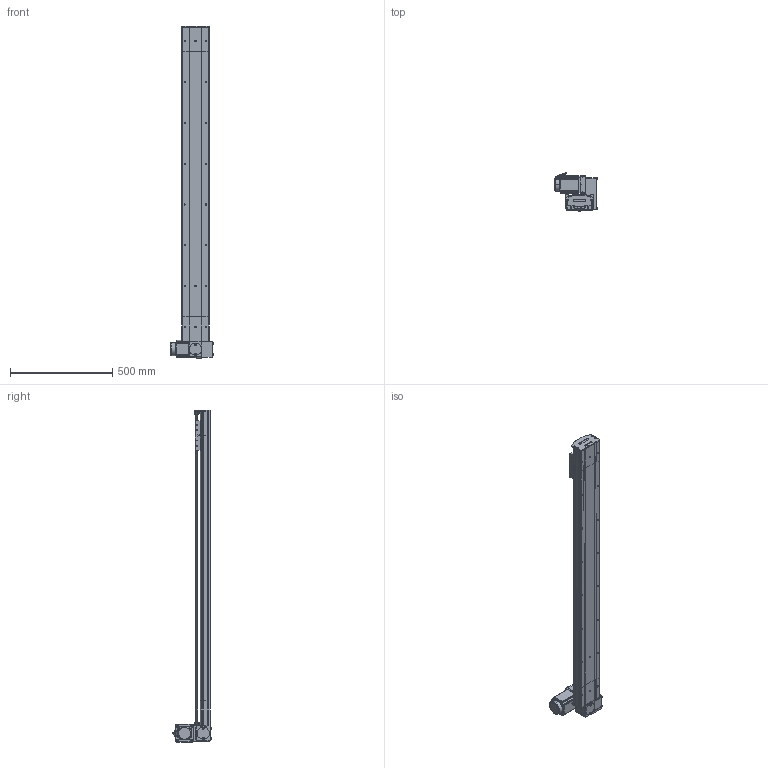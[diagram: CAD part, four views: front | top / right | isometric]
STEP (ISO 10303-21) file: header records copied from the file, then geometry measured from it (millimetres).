
FILE_DESCRIPTION (( 'STEP AP214' ), '1' );
FILE_NAME ('D14 TBH LT S1300.STEP', '2010-06-29T13:56:36', ( 'Conseil Régional Haute-Normandie' ), ( 'Conseil Régional Haute-Normandie' ), 'SwSTEP 2.0', 'SolidWorks 2010', '' );
FILE_SCHEMA (( 'AUTOMOTIVE_DESIGN' ));
Length unit declared in the file: millimetre
Products named in the file (39): couvercle D14 head_Default; Moteur motionking 90BLDC100A-640; couvercle D14_Default; corp head D14_Default; poulie tail_Default; vis M5 L8 90°_Default; poulie head_Default; D14 TB H LT_Default; Couroie_Default; couroie 2_Default; Arbre+rail head D14; plaque de  bout head D14 LT_Default; vis M5 L5_Default; Chariot D14; avant 90BLDC100A-640; chariot D14B_Default; Plaque racord D14_Default; Conecteur_Default; guide D14; Cvis M5 L70_Default; renvoi LH_Default; Vis M5 L16-2_Default; corps 90BLDC100A-640; Conecteur2_Default; Cache arbre_Default; Cache_Default; codeur 90BLDC100-640; vis M5 L12_Default; tete d''axe haut D14; plaque de  bout tail D14_Default; corpl tail D14_Default; D14 couroie L1300_Default; Tail D14B_Default; couvercle D14 course L1300_Default; Rail + couroie D14 Course 1300 ; corpl 1300_Default; Arbre+rail tail D14; vis M5 L16_Default; D14 TBH LT S1300
Assembly tree (68 placements, depth 4):
  D14 TBH LT S1300
    D14 TB H LT_Default
      Cvis M5 L70_Default  x4
      Vis M5 L16-2_Default  x4
      couroie 2_Default
      vis M5 L12_Default  x12
      Cache arbre_Default
      poulie head_Default
      plaque de  bout head D14 LT_Default
      vis M5 L5_Default  x2
      couvercle D14 head_Default
      Cache_Default  x2
      Plaque racord D14_Default
      corp head D14_Default
      Arbre+rail head D14
      Moteur motionking 90BLDC100A-640
        Conecteur2_Default
        codeur 90BLDC100-640
        Conecteur_Default
        avant 90BLDC100A-640
        corps 90BLDC100A-640
      renvoi LH_Default
    D14 couroie L1300_Default
      corpl 1300_Default
      couvercle D14 course L1300_Default
      Rail + couroie D14 Course 1300 
    Tail D14B_Default
      tete d''axe haut D14
      corpl tail D14_Default
      plaque de  bout tail D14_Default
      vis M5 L8 90°_Default  x2
      vis M5 L12_Default  x4
      Couroie_Default
      vis M5 L16_Default  x2
      couvercle D14_Default
      poulie tail_Default
      Arbre+rail tail D14
    chariot D14B_Default
      vis M5 L12_Default  x4
      guide D14  x2
      Chariot D14
Bounding box: 207.2 x 189.1 x 1625.75 mm (x, y, z)
Volume: 7001328.9 mm3; surface area: 2331407.4 mm2
Topology: 92 solids, 92 shells, 2629 faces, 6431 edges, 4146 vertices
Faces by surface type: plane 1589, cylinder 727, bspline 136, torus 89, cone 84, sphere 4
Entity records: 79172 total; most frequent: CARTESIAN_POINT 23545, ORIENTED_EDGE 9722, DIRECTION 9496, EDGE_CURVE 4861, VECTOR 3274, LINE 3274, VERTEX_POINT 3196, AXIS2_PLACEMENT_3D 3111
